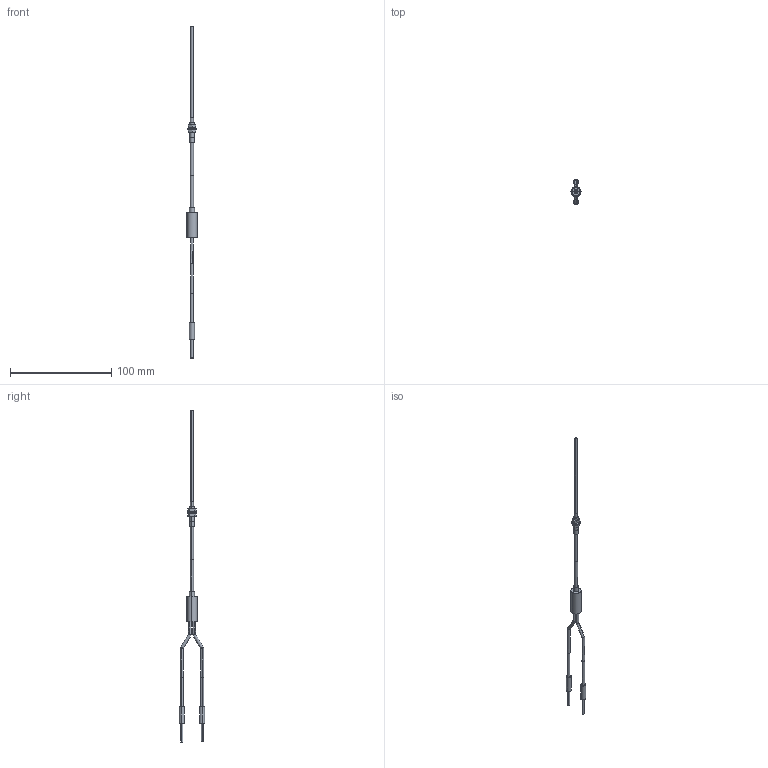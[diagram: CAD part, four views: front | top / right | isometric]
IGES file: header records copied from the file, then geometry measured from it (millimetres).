
Start section: SolidWorks IGES FILE using analytic representation for surfaces
Global section: file name: C:\Documents and Settings\yk0651\デスクトップ\3D_catalog_050904\0_IGES\FD-H35-20S.IGS; native system: SolidWorks 2004 by SolidWorks Corporation; preprocessor: Version 5.3; author: yk0651; date: 050904.184508; units: millimetre
Bounding box: 10 x 25 x 328 mm (x, y, z)
Volume: 5264.7 mm3; surface area: 5520.8 mm2
Topology: 8 solids, 8 shells, 92 faces, 192 edges, 128 vertices
Faces by surface type: revolution 52, plane 40
